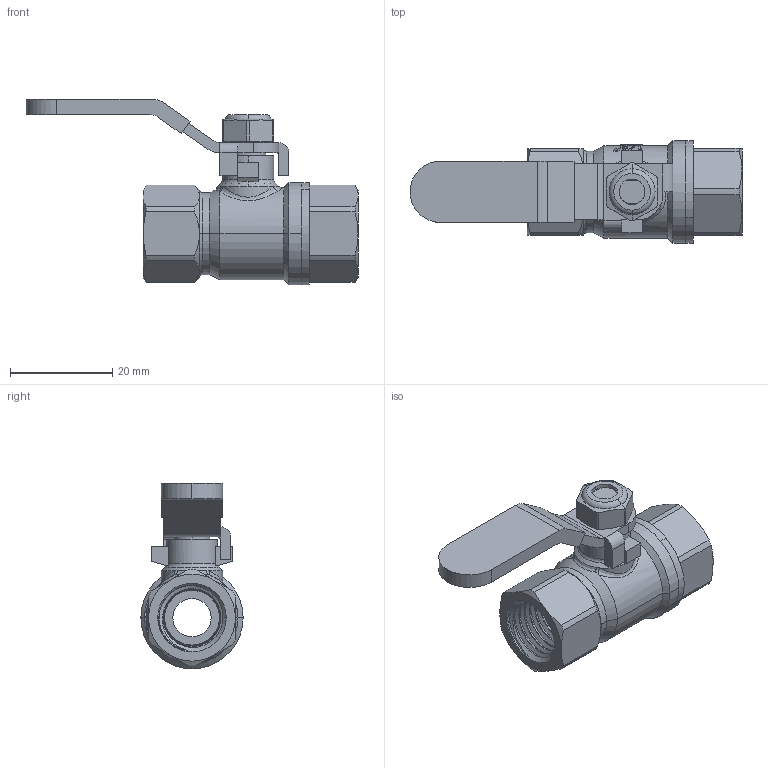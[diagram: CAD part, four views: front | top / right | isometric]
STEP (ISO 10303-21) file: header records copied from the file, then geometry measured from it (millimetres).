
FILE_DESCRIPTION(('Open CASCADE Model'),'2;1');
FILE_NAME('Open CASCADE Shape Model','2021-12-15T12:15:14',('Author'),( 'Open CASCADE'),'Open CASCADE STEP processor 7.3','Open CASCADE 7.3' ,'Unknown');
FILE_SCHEMA(('AUTOMOTIVE_DESIGN { 1 0 10303 214 1 1 1 1 }'));
Length unit declared in the file: millimetre
Products named in the file (11): Open CASCADE STEP translator 7.3 1; Open CASCADE STEP translator 7.3 1.1; Open CASCADE STEP translator 7.3 1.2; Open CASCADE STEP translator 7.3 1.3; Open CASCADE STEP translator 7.3 1.4; Open CASCADE STEP translator 7.3 1.5; Open CASCADE STEP translator 7.3 1.6; Open CASCADE STEP translator 7.3 1.7; Open CASCADE STEP translator 7.3 1.8; Open CASCADE STEP translator 7.3 1.9; Open CASCADE STEP translator 7.3 1.10
Assembly tree (10 placements, depth 2):
  Open CASCADE STEP translator 7.3 1
    Open CASCADE STEP translator 7.3 1.1
    Open CASCADE STEP translator 7.3 1.2
    Open CASCADE STEP translator 7.3 1.3
    Open CASCADE STEP translator 7.3 1.4
    Open CASCADE STEP translator 7.3 1.5
    Open CASCADE STEP translator 7.3 1.6
    Open CASCADE STEP translator 7.3 1.7
    Open CASCADE STEP translator 7.3 1.8
    Open CASCADE STEP translator 7.3 1.9
    Open CASCADE STEP translator 7.3 1.10
Bounding box: 64.93 x 20 x 36.3 mm (x, y, z)
Volume: 9444.1 mm3; surface area: 10658.4 mm2
Topology: 10 solids, 10 shells, 536 faces, 1388 edges, 894 vertices
Faces by surface type: cylinder 147, plane 136, bspline 131, cone 80, torus 34, sphere 6, revolution 2
Entity records: 95535 total; most frequent: CARTESIAN_POINT 71405, DIRECTION 3363, ORIENTED_EDGE 2772, PCURVE 2772, DEFINITIONAL_REPRESENTATION 2772, B_SPLINE_CURVE_WITH_KNOTS 1724, LINE 1723, VECTOR 1723
